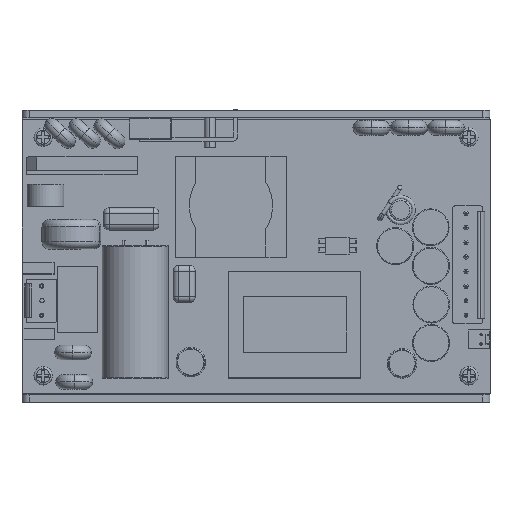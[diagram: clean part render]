
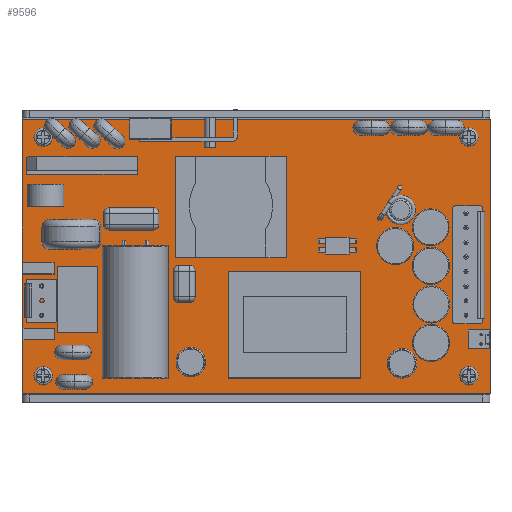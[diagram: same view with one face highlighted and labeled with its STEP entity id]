
A CAD part, top view. The second image highlights one B-rep face of the part: STEP entity #9596.
In plain terms, the highlighted planar face has unit normal (0, 0, 1).
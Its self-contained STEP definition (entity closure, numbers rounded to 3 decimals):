
#51 = CARTESIAN_POINT ( 'NONE',  ( 5.72, 4.7, 1.6 ) ) ;
#195 = EDGE_LOOP ( 'NONE', ( #14370, #6047, #9179, #11309 ) ) ;
#419 = CARTESIAN_POINT ( 'NONE',  ( 121.28, 4.695, 1.6 ) ) ;
#467 = EDGE_CURVE ( 'NONE', #21286, #18289, #21765, .T. ) ;
#1105 = CIRCLE ( 'NONE', #10553, 1.575 ) ;
#1324 = FACE_BOUND ( 'NONE', #14503, .T. ) ;
#1756 = DIRECTION ( 'NONE',  ( -1., 0., 0. ) ) ;
#1803 = CARTESIAN_POINT ( 'NONE',  ( 7.295, 4.7, 1.6 ) ) ;
#1881 = CARTESIAN_POINT ( 'NONE',  ( 127., 0., 1.6 ) ) ;
#2107 = DIRECTION ( 'NONE',  ( -1., 0., 0. ) ) ;
#2297 = AXIS2_PLACEMENT_3D ( 'NONE', #18153, #13047, #21427 ) ;
#2715 = AXIS2_PLACEMENT_3D ( 'NONE', #6678, #12402, #7996 ) ;
#3270 = DIRECTION ( 'NONE',  ( 0., 1., 0. ) ) ;
#3472 = DIRECTION ( 'NONE',  ( -1., 0., 0. ) ) ;
#3723 = DIRECTION ( 'NONE',  ( 0., 0., -1. ) ) ;
#3833 = CARTESIAN_POINT ( 'NONE',  ( 119.705, 69.473, 1.6 ) ) ;
#3893 = CIRCLE ( 'NONE', #17856, 1.575 ) ;
#4017 = EDGE_CURVE ( 'NONE', #6390, #9452, #15903, .T. ) ;
#4906 = ORIENTED_EDGE ( 'NONE', *, *, #4017, .T. ) ;
#5054 = ORIENTED_EDGE ( 'NONE', *, *, #8047, .T. ) ;
#5233 = EDGE_CURVE ( 'NONE', #17931, #11207, #10766, .T. ) ;
#5275 = FACE_OUTER_BOUND ( 'NONE', #195, .T. ) ;
#5419 = EDGE_CURVE ( 'NONE', #6372, #12807, #5981, .T. ) ;
#5981 = LINE ( 'NONE', #10502, #18963 ) ;
#6047 = ORIENTED_EDGE ( 'NONE', *, *, #7596, .T. ) ;
#6302 = ORIENTED_EDGE ( 'NONE', *, *, #5233, .T. ) ;
#6328 = FACE_BOUND ( 'NONE', #7020, .T. ) ;
#6372 = VERTEX_POINT ( 'NONE', #12507 ) ;
#6390 = VERTEX_POINT ( 'NONE', #11150 ) ;
#6661 = CARTESIAN_POINT ( 'NONE',  ( 127., 0., 1.6 ) ) ;
#6678 = CARTESIAN_POINT ( 'NONE',  ( 5.72, 4.7, 1.6 ) ) ;
#7020 = EDGE_LOOP ( 'NONE', ( #12978, #15800 ) ) ;
#7199 = VECTOR ( 'NONE', #19427, 1000. ) ;
#7596 = EDGE_CURVE ( 'NONE', #12807, #17378, #12794, .T. ) ;
#7853 = CARTESIAN_POINT ( 'NONE',  ( 127., 74.168, 1.6 ) ) ;
#7874 = ORIENTED_EDGE ( 'NONE', *, *, #8080, .T. ) ;
#7996 = DIRECTION ( 'NONE',  ( -1., 0., 0. ) ) ;
#8039 = ORIENTED_EDGE ( 'NONE', *, *, #467, .T. ) ;
#8047 = EDGE_CURVE ( 'NONE', #18289, #21286, #18812, .T. ) ;
#8080 = EDGE_CURVE ( 'NONE', #11207, #17931, #13245, .T. ) ;
#8294 = EDGE_CURVE ( 'NONE', #17810, #13521, #1105, .T. ) ;
#8326 = CARTESIAN_POINT ( 'NONE',  ( 119.705, 4.695, 1.6 ) ) ;
#8651 = EDGE_LOOP ( 'NONE', ( #5054, #8039 ) ) ;
#8718 = AXIS2_PLACEMENT_3D ( 'NONE', #13851, #3723, #15533 ) ;
#9004 = DIRECTION ( 'NONE',  ( 0., 0., -1. ) ) ;
#9028 = VECTOR ( 'NONE', #3472, 1000. ) ;
#9179 = ORIENTED_EDGE ( 'NONE', *, *, #13871, .T. ) ;
#9278 = CARTESIAN_POINT ( 'NONE',  ( 0., 0., 1.6 ) ) ;
#9452 = VERTEX_POINT ( 'NONE', #1803 ) ;
#9596 = ADVANCED_FACE ( 'NONE', ( #6328, #14263, #1324, #9761, #5275 ), #19160, .F. ) ;
#9692 = DIRECTION ( 'NONE',  ( 0., 0., -1. ) ) ;
#9752 = CARTESIAN_POINT ( 'NONE',  ( 7.295, 69.468, 1.6 ) ) ;
#9761 = FACE_BOUND ( 'NONE', #8651, .T. ) ;
#9858 = DIRECTION ( 'NONE',  ( 0., 0., -1. ) ) ;
#10502 = CARTESIAN_POINT ( 'NONE',  ( 0., 0., 1.6 ) ) ;
#10508 = CARTESIAN_POINT ( 'NONE',  ( 122.855, 69.473, 1.6 ) ) ;
#10553 = AXIS2_PLACEMENT_3D ( 'NONE', #19857, #9692, #21526 ) ;
#10766 = CIRCLE ( 'NONE', #21405, 1.575 ) ;
#10981 = DIRECTION ( 'NONE',  ( 0., -1., 0. ) ) ;
#10994 = AXIS2_PLACEMENT_3D ( 'NONE', #419, #12218, #2107 ) ;
#11121 = AXIS2_PLACEMENT_3D ( 'NONE', #51, #11856, #1756 ) ;
#11150 = CARTESIAN_POINT ( 'NONE',  ( 4.145, 4.7, 1.6 ) ) ;
#11207 = VERTEX_POINT ( 'NONE', #13606 ) ;
#11309 = ORIENTED_EDGE ( 'NONE', *, *, #18006, .T. ) ;
#11856 = DIRECTION ( 'NONE',  ( 0., 0., -1. ) ) ;
#12218 = DIRECTION ( 'NONE',  ( 0., 0., -1. ) ) ;
#12350 = CARTESIAN_POINT ( 'NONE',  ( 0., 0., 1.6 ) ) ;
#12402 = DIRECTION ( 'NONE',  ( 0., 0., -1. ) ) ;
#12507 = CARTESIAN_POINT ( 'NONE',  ( 0., 74.168, 1.6 ) ) ;
#12592 = DIRECTION ( 'NONE',  ( -1., 0., 0. ) ) ;
#12794 = LINE ( 'NONE', #9278, #7199 ) ;
#12807 = VERTEX_POINT ( 'NONE', #17234 ) ;
#12978 = ORIENTED_EDGE ( 'NONE', *, *, #20871, .T. ) ;
#13047 = DIRECTION ( 'NONE',  ( 0., 0., -1. ) ) ;
#13245 = CIRCLE ( 'NONE', #10994, 1.575 ) ;
#13521 = VERTEX_POINT ( 'NONE', #14095 ) ;
#13535 = EDGE_LOOP ( 'NONE', ( #4906, #20530 ) ) ;
#13606 = CARTESIAN_POINT ( 'NONE',  ( 122.855, 4.695, 1.6 ) ) ;
#13846 = AXIS2_PLACEMENT_3D ( 'NONE', #12350, #9004, #20856 ) ;
#13851 = CARTESIAN_POINT ( 'NONE',  ( 121.28, 69.473, 1.6 ) ) ;
#13871 = EDGE_CURVE ( 'NONE', #17378, #18493, #15952, .T. ) ;
#14095 = CARTESIAN_POINT ( 'NONE',  ( 4.145, 69.468, 1.6 ) ) ;
#14263 = FACE_BOUND ( 'NONE', #13535, .T. ) ;
#14370 = ORIENTED_EDGE ( 'NONE', *, *, #5419, .T. ) ;
#14503 = EDGE_LOOP ( 'NONE', ( #6302, #7874 ) ) ;
#14813 = DIRECTION ( 'NONE',  ( 0., 0., -1. ) ) ;
#15280 = CARTESIAN_POINT ( 'NONE',  ( 0., 74.168, 1.6 ) ) ;
#15533 = DIRECTION ( 'NONE',  ( -1., 0., 0. ) ) ;
#15800 = ORIENTED_EDGE ( 'NONE', *, *, #8294, .T. ) ;
#15903 = CIRCLE ( 'NONE', #2715, 1.575 ) ;
#15952 = LINE ( 'NONE', #6661, #21002 ) ;
#16802 = EDGE_CURVE ( 'NONE', #9452, #6390, #19057, .T. ) ;
#17104 = CARTESIAN_POINT ( 'NONE',  ( 121.28, 4.695, 1.6 ) ) ;
#17234 = CARTESIAN_POINT ( 'NONE',  ( 0., 0., 1.6 ) ) ;
#17378 = VERTEX_POINT ( 'NONE', #1881 ) ;
#17810 = VERTEX_POINT ( 'NONE', #9752 ) ;
#17856 = AXIS2_PLACEMENT_3D ( 'NONE', #20017, #9858, #21685 ) ;
#17931 = VERTEX_POINT ( 'NONE', #8326 ) ;
#18006 = EDGE_CURVE ( 'NONE', #18493, #6372, #18031, .T. ) ;
#18031 = LINE ( 'NONE', #15280, #9028 ) ;
#18153 = CARTESIAN_POINT ( 'NONE',  ( 121.28, 69.473, 1.6 ) ) ;
#18289 = VERTEX_POINT ( 'NONE', #3833 ) ;
#18493 = VERTEX_POINT ( 'NONE', #7853 ) ;
#18812 = CIRCLE ( 'NONE', #8718, 1.575 ) ;
#18963 = VECTOR ( 'NONE', #10981, 1000. ) ;
#19057 = CIRCLE ( 'NONE', #11121, 1.575 ) ;
#19160 = PLANE ( 'NONE',  #13846 ) ;
#19427 = DIRECTION ( 'NONE',  ( 1., 0., 0. ) ) ;
#19857 = CARTESIAN_POINT ( 'NONE',  ( 5.72, 69.468, 1.6 ) ) ;
#20017 = CARTESIAN_POINT ( 'NONE',  ( 5.72, 69.468, 1.6 ) ) ;
#20530 = ORIENTED_EDGE ( 'NONE', *, *, #16802, .T. ) ;
#20856 = DIRECTION ( 'NONE',  ( -1., 0., 0. ) ) ;
#20871 = EDGE_CURVE ( 'NONE', #13521, #17810, #3893, .T. ) ;
#21002 = VECTOR ( 'NONE', #3270, 1000. ) ;
#21286 = VERTEX_POINT ( 'NONE', #10508 ) ;
#21405 = AXIS2_PLACEMENT_3D ( 'NONE', #17104, #14813, #12592 ) ;
#21427 = DIRECTION ( 'NONE',  ( -1., 0., 0. ) ) ;
#21526 = DIRECTION ( 'NONE',  ( -1., 0., 0. ) ) ;
#21685 = DIRECTION ( 'NONE',  ( -1., 0., 0. ) ) ;
#21765 = CIRCLE ( 'NONE', #2297, 1.575 ) ;
